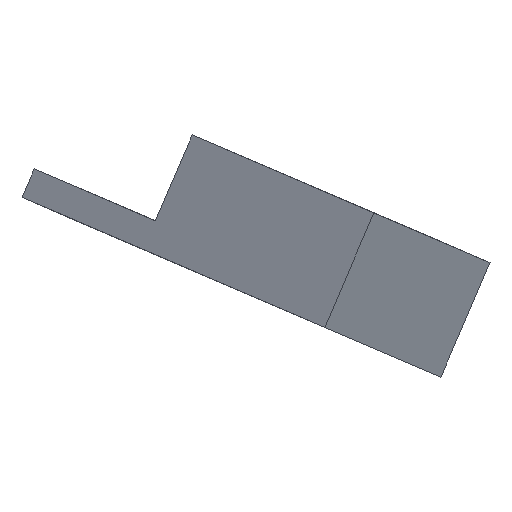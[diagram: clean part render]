
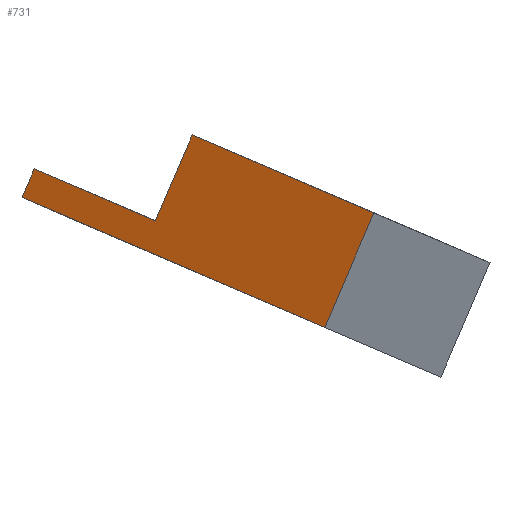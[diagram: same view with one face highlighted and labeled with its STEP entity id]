
A CAD part, left-side view. The second image highlights one B-rep face of the part: STEP entity #731.
In plain terms, the highlighted planar face has unit normal (-0.794, 0.559, 0.24).
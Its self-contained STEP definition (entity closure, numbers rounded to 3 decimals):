
#651=CARTESIAN_POINT('',(520.784,284.731,628.817));
#652=VERTEX_POINT('',#651);
#659=CARTESIAN_POINT('',(520.784,267.2,669.719));
#660=VERTEX_POINT('',#659);
#661=CARTESIAN_POINT('',(520.784,267.2,669.719));
#662=DIRECTION('',(0.0,0.394,-0.919));
#663=VECTOR('',#662,1.);
#664=LINE('',#661,#663);
#665=EDGE_CURVE('',#660,#652,#664,.T.);
#676=CARTESIAN_POINT('',(441.685,197.194,571.171));
#677=DIRECTION('',(0.794,-0.559,-0.24));
#678=DIRECTION('',(0.608,0.729,0.313));
#679=AXIS2_PLACEMENT_3D('',#676,#677,#678);
#680=PLANE('',#679);
#681=ORIENTED_EDGE('',*,*,#665,.T.);
#682=CARTESIAN_POINT('',(521.088,285.293,628.514));
#683=VERTEX_POINT('',#682);
#684=CARTESIAN_POINT('',(521.088,285.096,628.973));
#685=DIRECTION('',(0.794,-0.559,-0.24));
#686=DIRECTION('',(0.576,0.817,0.0));
#687=AXIS2_PLACEMENT_3D('',#684,#685,#686);
#688=CIRCLE('',#687,0.5);
#689=EDGE_CURVE('',#652,#683,#688,.T.);
#690=ORIENTED_EDGE('',*,*,#689,.T.);
#691=CARTESIAN_POINT('',(569.46,343.281,653.368));
#692=VERTEX_POINT('',#691);
#693=CARTESIAN_POINT('',(520.784,284.928,628.358));
#694=DIRECTION('',(0.608,0.729,0.313));
#695=VECTOR('',#694,1.);
#696=LINE('',#693,#695);
#697=EDGE_CURVE('',#683,#692,#696,.T.);
#698=ORIENTED_EDGE('',*,*,#697,.T.);
#699=CARTESIAN_POINT('',(569.46,349.191,639.581));
#700=VERTEX_POINT('',#699);
#701=CARTESIAN_POINT('',(569.46,343.281,653.368));
#702=DIRECTION('',(0.0,0.394,-0.919));
#703=VECTOR('',#702,1.);
#704=LINE('',#701,#703);
#705=EDGE_CURVE('',#692,#700,#704,.T.);
#706=ORIENTED_EDGE('',*,*,#705,.T.);
#707=CARTESIAN_POINT('',(447.77,203.307,577.055));
#708=VERTEX_POINT('',#707);
#709=CARTESIAN_POINT('',(569.46,349.191,639.581));
#710=DIRECTION('',(-0.608,-0.729,-0.313));
#711=VECTOR('',#710,1.);
#712=LINE('',#709,#711);
#713=EDGE_CURVE('',#700,#708,#712,.T.);
#714=ORIENTED_EDGE('',*,*,#713,.T.);
#715=CARTESIAN_POINT('',(447.77,179.67,632.203));
#716=VERTEX_POINT('',#715);
#717=CARTESIAN_POINT('',(447.77,179.67,632.203));
#718=DIRECTION('',(0.0,0.394,-0.919));
#719=VECTOR('',#718,1.);
#720=LINE('',#717,#719);
#721=EDGE_CURVE('',#716,#708,#720,.T.);
#722=ORIENTED_EDGE('',*,*,#721,.F.);
#723=CARTESIAN_POINT('',(520.784,267.2,669.719));
#724=DIRECTION('',(-0.608,-0.729,-0.313));
#725=VECTOR('',#724,1.);
#726=LINE('',#723,#725);
#727=EDGE_CURVE('',#660,#716,#726,.T.);
#728=ORIENTED_EDGE('',*,*,#727,.F.);
#729=EDGE_LOOP('',(#681,#690,#698,#706,#714,#722,#728));
#730=FACE_OUTER_BOUND('',#729,.T.);
#731=ADVANCED_FACE('',(#730),#680,.F.);
